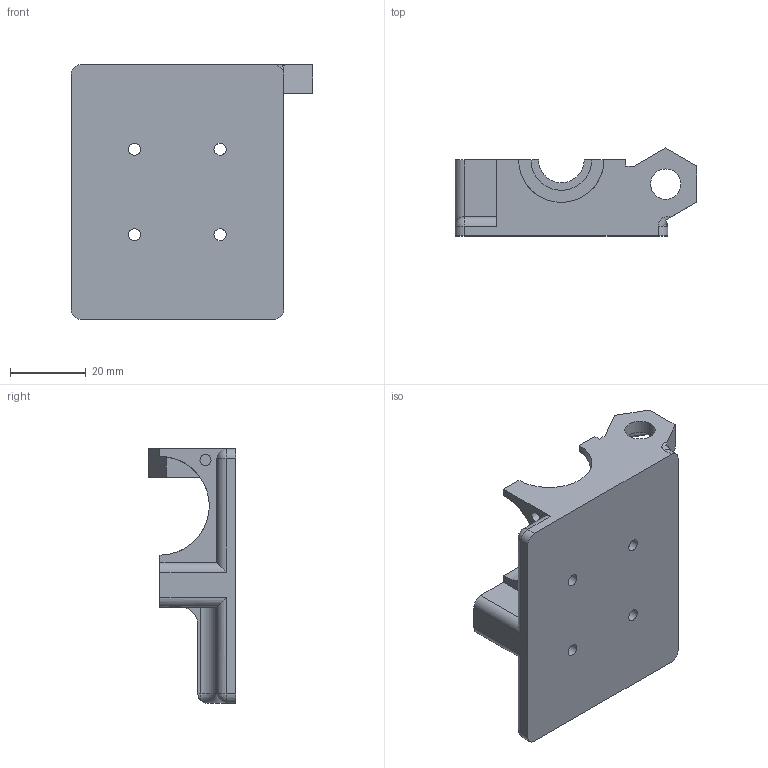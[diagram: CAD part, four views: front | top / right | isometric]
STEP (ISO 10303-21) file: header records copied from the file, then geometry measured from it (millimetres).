
FILE_DESCRIPTION(/* description */ (''),/* implementation_level */ '2;1');
FILE_NAME(/* name */ 'C:/Users/jack-_000/Documents/3dPrinter/Models/Venture Aeon/Bowden X Carriage/Main 8mm.step',/* time_stamp */ '2017-03-18T19:32:37+00:00',/* author */ (''),/* organization */ (''),/* preprocessor_version */ 'ST-DEVELOPER v16.5',/* originating_system */ 'Autodesk Translation Framework v5.2.0.2920',/* authorisation */ '');
FILE_SCHEMA (('AUTOMOTIVE_DESIGN { 1 0 10303 214 3 1 1 }'));
Length unit declared in the file: millimetre
Products named in the file (1): X carriage mount 8mm v3
Bounding box: 63.72 x 23.11 x 67 mm (x, y, z)
Volume: 35172.3 mm3; surface area: 12815 mm2
Topology: 1 solids, 1 shells, 107 faces, 274 edges, 174 vertices
Faces by surface type: plane 61, cylinder 39, torus 3, sphere 3, bspline 1
Full cylindrical faces by diameter (mm): 2.9 x1, 3.2 x8, 6 x4, 8 x1
Entity records: 3426 total; most frequent: CARTESIAN_POINT 821, DIRECTION 538, ORIENTED_EDGE 510, EDGE_CURVE 255, AXIS2_PLACEMENT_3D 189, VERTEX_POINT 170, LINE 160, VECTOR 160
